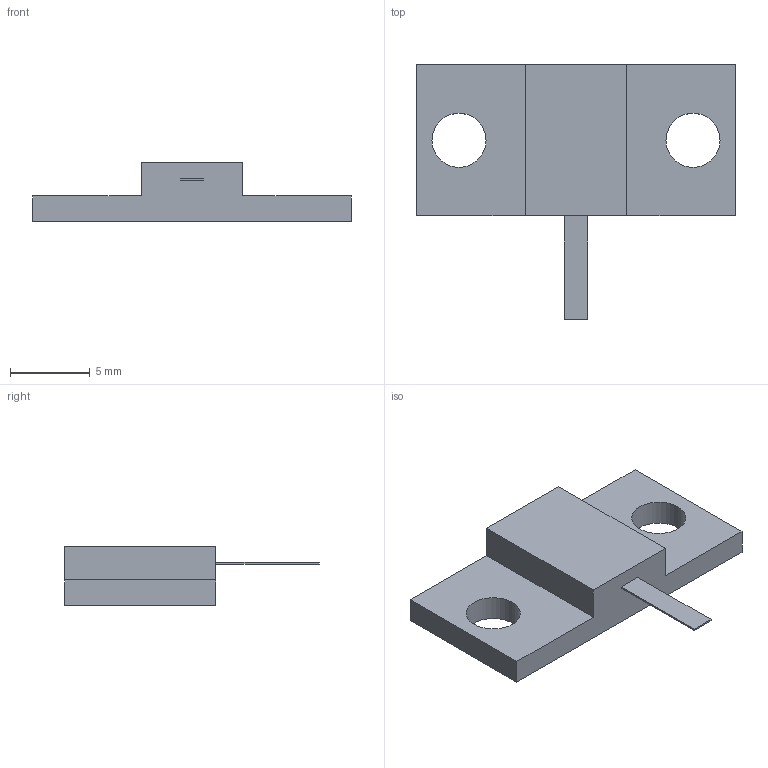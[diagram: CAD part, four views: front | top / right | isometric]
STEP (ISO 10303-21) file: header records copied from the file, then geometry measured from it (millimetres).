
FILE_DESCRIPTION(('STEP AP203'), '1');
FILE_NAME('P1-170-150-31', '', ('UNSPECIFIED'), ('UNSPECIFIED'), 'ASCON STEP Converter 1.6', 'ASCON Math Kernel', '');
FILE_SCHEMA(('CONFIG_CONTROL_DESIGN'));
Length unit declared in the file: millimetre
Bounding box: 20 x 16 x 3.7 mm (x, y, z)
Volume: 403.6 mm3; surface area: 559.8 mm2
Topology: 1 solids, 1 shells, 17 faces, 42 edges, 28 vertices
Faces by surface type: plane 15, cylinder 2
Full cylindrical faces by diameter (mm): 3.4 x2
Entity records: 678 total; most frequent: CARTESIAN_POINT 86, DIRECTION 80, ORIENTED_EDGE 80, EDGE_CURVE 40, LINE 36, VECTOR 36, VERTEX_POINT 28, EDGE_LOOP 24
